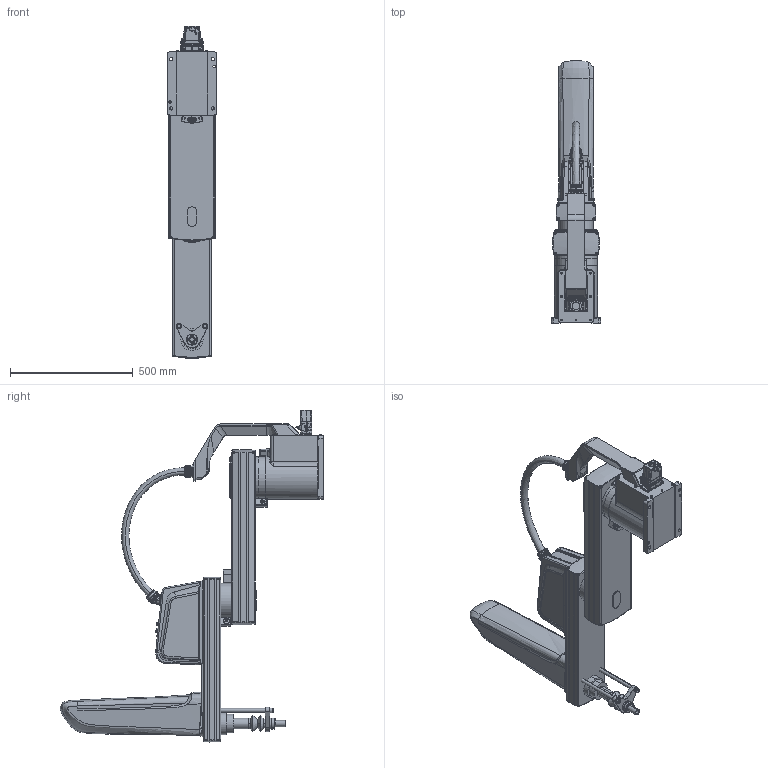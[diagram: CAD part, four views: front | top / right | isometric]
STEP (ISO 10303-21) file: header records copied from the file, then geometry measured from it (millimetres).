
FILE_DESCRIPTION (( 'STEP AP214' ), '1' );
FILE_NAME ('MB25SC-1000 俋楷耀倰褫迍雄SW2020.STEP', '2024-10-26T02:08:38', ( 'Windows User' ), ( 'P R C' ), 'SwSTEP 2.0', 'SolidWorks 2020', '' );
FILE_SCHEMA (( 'AUTOMOTIVE_DESIGN' ));
Length unit declared in the file: millimetre
Products named in the file (5): J4; J1; J3; J2; MB25SC-1000 俋楷耀倰褫迍雄SW2020
Assembly tree (4 placements, depth 2):
  MB25SC-1000 俋楷耀倰褫迍雄SW2020
    J1
    J2
    J3
    J4
Bounding box: 200 x 1070.48 x 1349.78 mm (x, y, z)
Volume: 25706778.4 mm3; surface area: 2216327 mm2
Topology: 3 solids, 40 shells, 5692 faces, 14749 edges, 9257 vertices
Faces by surface type: plane 1967, cylinder 1765, bspline 1422, cone 538
Entity records: 272293 total; most frequent: CARTESIAN_POINT 145998, ORIENTED_EDGE 29098, DIRECTION 22267, EDGE_CURVE 14553, VERTEX_POINT 9257, AXIS2_PLACEMENT_3D 8198, EDGE_LOOP 6196, VECTOR 5871
